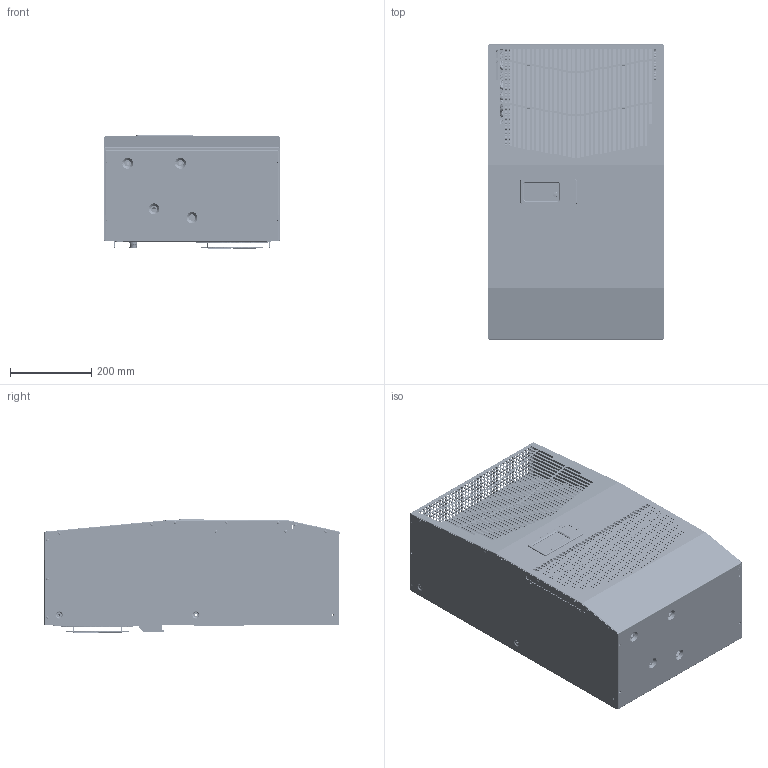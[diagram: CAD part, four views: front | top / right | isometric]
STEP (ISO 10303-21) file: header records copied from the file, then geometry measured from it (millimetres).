
FILE_DESCRIPTION (( 'STEP AP203' ), '1' );
FILE_NAME ('g280426g050.STEP', '2013-04-17T21:05:19', ( 'User' ), ( 'Pentair Inc' ), 'SwSTEP 2.0', 'SolidWorks 2010', '' );
FILE_SCHEMA (( 'CONFIG_CONTROL_DESIGN' ));
Products named in the file (37): g280426g050; 89078939; 89101704; 89101704_as installed; 89059345_CR-PHMS 0.19-24x0.375x0.375-N; 10-1061-16; 89092464; 10-1002-455; 38-2023-12; 89101703; 89101703_as installed; 89078940; 89101701_as installed; 89101702_as installed; 10-1014-105; 89078960; 28-6010-00; 89098948; 89098949; 89098950; 89098951; 89098953; 89098952; 10-1097-03_AS USED; 10-1015-97_Internal Tooth LW Type A-0.19; 89096883; 10-1131-08; 89051206; 10-1002-478; 10-1091-121; 10-1014-34; 28-6221-00; 89100929; 13-1014-02; 05-2001-195
Assembly tree (90 placements, depth 3):
  g280426g050
    89092464  x2
    38-2023-12
    89101701_as installed
    10-1014-34  x24
    10-1091-121
    28-6010-00
    89078939
    89078940
    10-1002-478
    10-1061-16
    89059345_CR-PHMS 0.19-24x0.375x0.375-N  x4
    89101701_as installed
    10-1015-97_Internal Tooth LW Type A-0.19  x3
    89101703
    89078960
    10-1131-08
    89098948
      10-1097-03_AS USED  x24
      89098953
      89098949
      89098950
      89098952
      89098951
    89101704_as installed
    10-1014-105  x3
    05-2001-195
    89101704
    89096883
    89051206
    13-1014-02
    89101702_as installed
    89100929
    89101703_as installed
    89101702_as installed
    10-1002-455
    28-6221-00
Bounding box: 434.39 x 726.23 x 280.31 mm (x, y, z)
Volume: 13656635 mm3; surface area: 4828986.5 mm2
Topology: 116 solids, 116 shells, 11774 faces, 31551 edges, 20013 vertices
Faces by surface type: plane 7773, cylinder 2150, bspline 845, torus 517, cone 297, sphere 192
Entity records: 249377 total; most frequent: CARTESIAN_POINT 63207, ORIENTED_EDGE 38276, DIRECTION 35749, EDGE_CURVE 19138, LINE 14447, VECTOR 14447, VERTEX_POINT 12408, AXIS2_PLACEMENT_3D 10651
